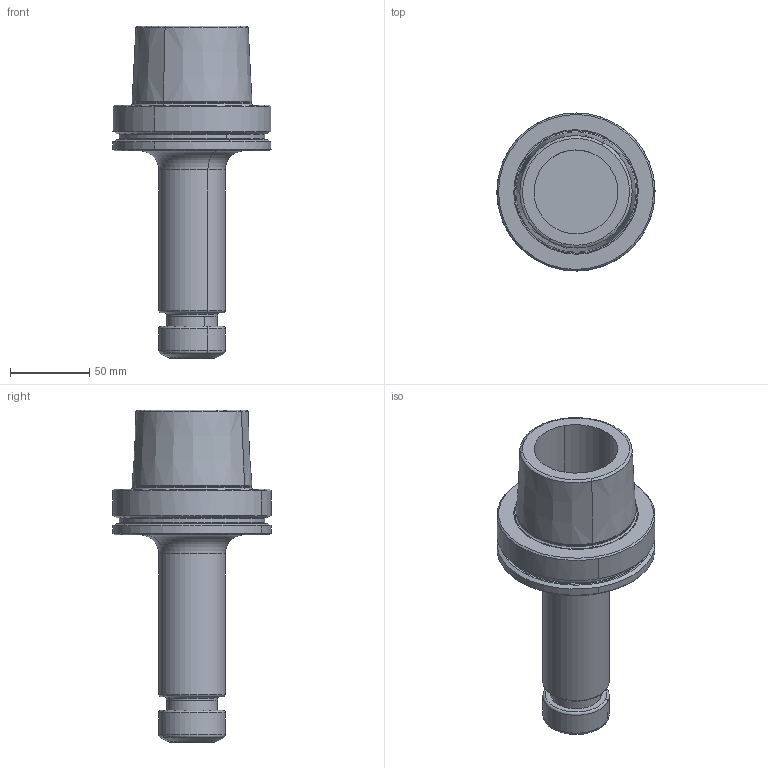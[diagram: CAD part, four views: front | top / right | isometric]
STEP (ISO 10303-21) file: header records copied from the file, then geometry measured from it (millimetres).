
FILE_DESCRIPTION(('CATIA V5 STEP','CAx-IF Rec.Pracs.--- Model Styling and Organization---1.2---2011-12-15'),'2;1');
FILE_NAME('\\nas01\drv1\utils\eitdev\rte\eit\transmagicconvert\db\out\635923367671243801\4504600-L-B.stp','2016-02-29T07:59:39+00:00',('none'),('none'),'CATIA Version 5 Release 21 SP 5 (IN-10)','CATIA V5 STEP AP214','none');
FILE_SCHEMA(('AUTOMOTIVE_DESIGN { 1 0 10303 214 1 1 1 1 }'));
Length unit declared in the file: millimetre
Products named in the file (1): HSK A 100 ER25X160
Bounding box: 99.98 x 100 x 210 mm (x, y, z)
Volume: 459425.5 mm3; surface area: 67123.5 mm2
Topology: 1 solids, 1 shells, 78 faces, 204 edges, 135 vertices
Faces by surface type: cylinder 24, torus 22, cone 22, plane 10
Entity records: 2303 total; most frequent: CARTESIAN_POINT 528, ORIENTED_EDGE 404, DIRECTION 276, EDGE_CURVE 202, AXIS2_PLACEMENT_3D 185, CIRCLE 138, VERTEX_POINT 135, EDGE_LOOP 87
